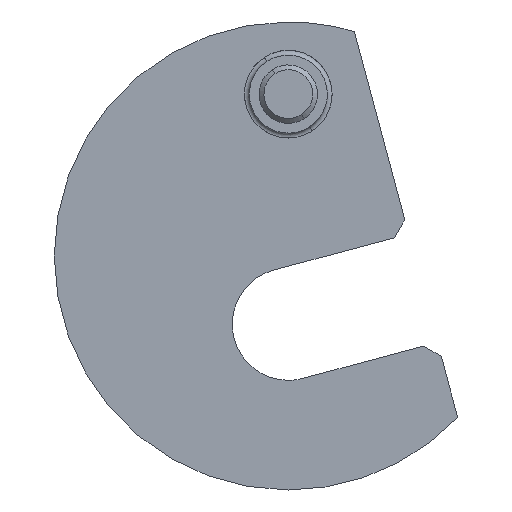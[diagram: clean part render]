
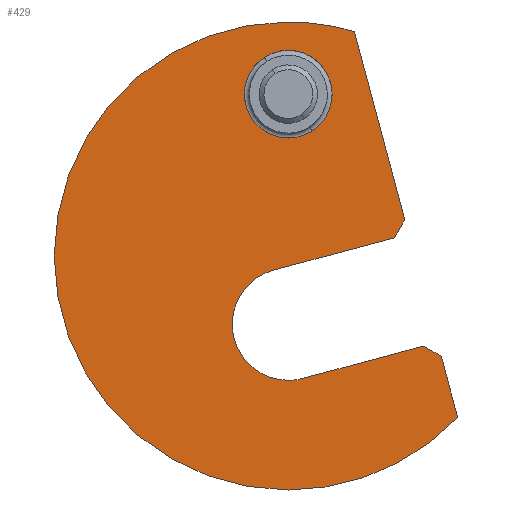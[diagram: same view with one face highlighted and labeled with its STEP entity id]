
A CAD part, front view. The second image highlights one B-rep face of the part: STEP entity #429.
In plain terms, the highlighted planar face has unit normal (0, -1, 0).
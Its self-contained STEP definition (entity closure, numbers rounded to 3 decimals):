
#21 = VERTEX_POINT ( 'NONE', #581 ) ;
#23 = VERTEX_POINT ( 'NONE', #577 ) ;
#116 = EDGE_CURVE ( 'NONE', #125, #23, #673, .T. ) ;
#125 = VERTEX_POINT ( 'NONE', #712 ) ;
#138 = EDGE_CURVE ( 'NONE', #21, #125, #747, .T. ) ;
#384 = VERTEX_POINT ( 'NONE', #733 ) ;
#387 = EDGE_CURVE ( 'NONE', #447, #446, #725, .T. ) ;
#388 = EDGE_CURVE ( 'NONE', #422, #384, #721, .T. ) ;
#389 = ORIENTED_EDGE ( 'NONE', *, *, #392, .F. ) ;
#392 = EDGE_CURVE ( 'NONE', #447, #445, #773, .T. ) ;
#396 = ORIENTED_EDGE ( 'NONE', *, *, #387, .T. ) ;
#397 = ORIENTED_EDGE ( 'NONE', *, *, #421, .F. ) ;
#400 = VERTEX_POINT ( 'NONE', #763 ) ;
#401 = VERTEX_POINT ( 'NONE', #762 ) ;
#402 = ORIENTED_EDGE ( 'NONE', *, *, #419, .F. ) ;
#419 = EDGE_CURVE ( 'NONE', #401, #21, #795, .T. ) ;
#421 = EDGE_CURVE ( 'NONE', #23, #446, #790, .T. ) ;
#422 = VERTEX_POINT ( 'NONE', #786 ) ;
#425 = EDGE_LOOP ( 'NONE', ( #502, #464 ) ) ;
#426 = ORIENTED_EDGE ( 'NONE', *, *, #138, .F. ) ;
#427 = EDGE_CURVE ( 'NONE', #445, #422, #847, .T. ) ;
#428 = ORIENTED_EDGE ( 'NONE', *, *, #427, .F. ) ;
#429 = ADVANCED_FACE ( 'NONE', ( #842, #841 ), #840, .F. ) ;
#430 = ORIENTED_EDGE ( 'NONE', *, *, #388, .F. ) ;
#435 = ORIENTED_EDGE ( 'NONE', *, *, #116, .F. ) ;
#436 = VERTEX_POINT ( 'NONE', #825 ) ;
#439 = EDGE_CURVE ( 'NONE', #400, #436, #824, .T. ) ;
#442 = EDGE_CURVE ( 'NONE', #454, #401, #876, .T. ) ;
#444 = EDGE_LOOP ( 'NONE', ( #389, #396, #397, #435, #426, #402, #448, #453, #452, #430, #428 ) ) ;
#445 = VERTEX_POINT ( 'NONE', #871 ) ;
#446 = VERTEX_POINT ( 'NONE', #870 ) ;
#447 = VERTEX_POINT ( 'NONE', #869 ) ;
#448 = ORIENTED_EDGE ( 'NONE', *, *, #442, .F. ) ;
#449 = EDGE_CURVE ( 'NONE', #384, #451, #868, .T. ) ;
#450 = EDGE_CURVE ( 'NONE', #454, #451, #864, .T. ) ;
#451 = VERTEX_POINT ( 'NONE', #860 ) ;
#452 = ORIENTED_EDGE ( 'NONE', *, *, #449, .F. ) ;
#453 = ORIENTED_EDGE ( 'NONE', *, *, #450, .T. ) ;
#454 = VERTEX_POINT ( 'NONE', #859 ) ;
#461 = EDGE_CURVE ( 'NONE', #436, #400, #851, .T. ) ;
#464 = ORIENTED_EDGE ( 'NONE', *, *, #461, .T. ) ;
#502 = ORIENTED_EDGE ( 'NONE', *, *, #439, .T. ) ;
#505 = AXIS2_PLACEMENT_3D ( 'NONE', #506, #507, #508 ) ;
#506 = CARTESIAN_POINT ( 'NONE',  ( 0., 0., 16.6 ) ) ;
#507 = DIRECTION ( 'NONE',  ( 0., 1., 0. ) ) ;
#508 = DIRECTION ( 'NONE',  ( 0., 0., 1. ) ) ;
#577 = CARTESIAN_POINT ( 'NONE',  ( 6.771, 0., 23.025 ) ) ;
#581 = CARTESIAN_POINT ( 'NONE',  ( 0., 0., -24. ) ) ;
#669 = DIRECTION ( 'NONE',  ( 0., 0., 1. ) ) ;
#670 = DIRECTION ( 'NONE',  ( 0., 1., 0. ) ) ;
#671 = CARTESIAN_POINT ( 'NONE',  ( 0., 0., 0. ) ) ;
#672 = AXIS2_PLACEMENT_3D ( 'NONE', #671, #670, #669 ) ;
#673 = CIRCLE ( 'NONE', #672, 24. ) ;
#712 = CARTESIAN_POINT ( 'NONE',  ( 0., 0., 24. ) ) ;
#721 = CIRCLE ( 'NONE', #782, 5.75 ) ;
#722 = DIRECTION ( 'NONE',  ( 0.5, 0., 0.866 ) ) ;
#723 = VECTOR ( 'NONE', #722, 1000. ) ;
#724 = CARTESIAN_POINT ( 'NONE',  ( 10.887, 0., 1.87 ) ) ;
#725 = LINE ( 'NONE', #724, #723 ) ;
#733 = CARTESIAN_POINT ( 'NONE',  ( 1.488, 0., -12.554 ) ) ;
#743 = DIRECTION ( 'NONE',  ( 0., 0., 1. ) ) ;
#744 = DIRECTION ( 'NONE',  ( 0., 1., 0. ) ) ;
#745 = CARTESIAN_POINT ( 'NONE',  ( 0., 0., 0. ) ) ;
#746 = AXIS2_PLACEMENT_3D ( 'NONE', #745, #744, #743 ) ;
#747 = CIRCLE ( 'NONE', #746, 24. ) ;
#762 = CARTESIAN_POINT ( 'NONE',  ( 17.377, 0., -16.554 ) ) ;
#763 = CARTESIAN_POINT ( 'NONE',  ( 0., 0., 12.1 ) ) ;
#770 = DIRECTION ( 'NONE',  ( -0.966, 0., -0.259 ) ) ;
#771 = VECTOR ( 'NONE', #770, 1000. ) ;
#772 = CARTESIAN_POINT ( 'NONE',  ( -1.488, 0., -1.446 ) ) ;
#773 = LINE ( 'NONE', #772, #771 ) ;
#779 = DIRECTION ( 'NONE',  ( 0., 0., 1. ) ) ;
#780 = DIRECTION ( 'NONE',  ( 0., -1., 0. ) ) ;
#781 = CARTESIAN_POINT ( 'NONE',  ( 0., 0., -7. ) ) ;
#782 = AXIS2_PLACEMENT_3D ( 'NONE', #781, #780, #779 ) ;
#786 = CARTESIAN_POINT ( 'NONE',  ( 0., 0., -12.75 ) ) ;
#787 = DIRECTION ( 'NONE',  ( 0.259, 0., -0.966 ) ) ;
#788 = VECTOR ( 'NONE', #787, 1000. ) ;
#789 = CARTESIAN_POINT ( 'NONE',  ( 6.771, 0., 23.025 ) ) ;
#790 = LINE ( 'NONE', #789, #788 ) ;
#791 = DIRECTION ( 'NONE',  ( 0., 0., 1. ) ) ;
#792 = DIRECTION ( 'NONE',  ( 0., 1., 0. ) ) ;
#793 = CARTESIAN_POINT ( 'NONE',  ( 0., 0., 0. ) ) ;
#794 = AXIS2_PLACEMENT_3D ( 'NONE', #793, #792, #791 ) ;
#795 = CIRCLE ( 'NONE', #794, 24. ) ;
#820 = DIRECTION ( 'NONE',  ( 0., 0., 1. ) ) ;
#821 = DIRECTION ( 'NONE',  ( 0., 1., 0. ) ) ;
#822 = CARTESIAN_POINT ( 'NONE',  ( 0., 0., 16.6 ) ) ;
#823 = AXIS2_PLACEMENT_3D ( 'NONE', #822, #821, #820 ) ;
#824 = CIRCLE ( 'NONE', #823, 4.5 ) ;
#825 = CARTESIAN_POINT ( 'NONE',  ( 0., 0., 21.1 ) ) ;
#835 = DIRECTION ( 'NONE',  ( 0., 0., 1. ) ) ;
#836 = DIRECTION ( 'NONE',  ( 0., 1., 0. ) ) ;
#837 = CARTESIAN_POINT ( 'NONE',  ( 0., 0., 0. ) ) ;
#839 = AXIS2_PLACEMENT_3D ( 'NONE', #837, #836, #835 ) ;
#840 = PLANE ( 'NONE',  #839 ) ;
#841 = FACE_BOUND ( 'NONE', #425, .T. ) ;
#842 = FACE_OUTER_BOUND ( 'NONE', #444, .T. ) ;
#843 = DIRECTION ( 'NONE',  ( 0., 0., 1. ) ) ;
#844 = DIRECTION ( 'NONE',  ( 0., -1., 0. ) ) ;
#845 = CARTESIAN_POINT ( 'NONE',  ( 0., 0., -7. ) ) ;
#846 = AXIS2_PLACEMENT_3D ( 'NONE', #845, #844, #843 ) ;
#847 = CIRCLE ( 'NONE', #846, 5.75 ) ;
#851 = CIRCLE ( 'NONE', #505, 4.5 ) ;
#859 = CARTESIAN_POINT ( 'NONE',  ( 15.701, 0., -10.299 ) ) ;
#860 = CARTESIAN_POINT ( 'NONE',  ( 13.863, 0., -9.238 ) ) ;
#861 = DIRECTION ( 'NONE',  ( -0.866, 0., 0.5 ) ) ;
#862 = VECTOR ( 'NONE', #861, 1000. ) ;
#863 = CARTESIAN_POINT ( 'NONE',  ( 15.701, 0., -10.299 ) ) ;
#864 = LINE ( 'NONE', #863, #862 ) ;
#865 = DIRECTION ( 'NONE',  ( 0.966, 0., 0.259 ) ) ;
#866 = VECTOR ( 'NONE', #865, 1000. ) ;
#867 = CARTESIAN_POINT ( 'NONE',  ( 1.488, 0., -12.554 ) ) ;
#868 = LINE ( 'NONE', #867, #866 ) ;
#869 = CARTESIAN_POINT ( 'NONE',  ( 10.887, 0., 1.87 ) ) ;
#870 = CARTESIAN_POINT ( 'NONE',  ( 11.948, 0., 3.707 ) ) ;
#871 = CARTESIAN_POINT ( 'NONE',  ( -1.488, 0., -1.446 ) ) ;
#873 = DIRECTION ( 'NONE',  ( 0.259, 0., -0.966 ) ) ;
#874 = VECTOR ( 'NONE', #873, 1000. ) ;
#875 = CARTESIAN_POINT ( 'NONE',  ( 15.312, 0., -8.85 ) ) ;
#876 = LINE ( 'NONE', #875, #874 ) ;
